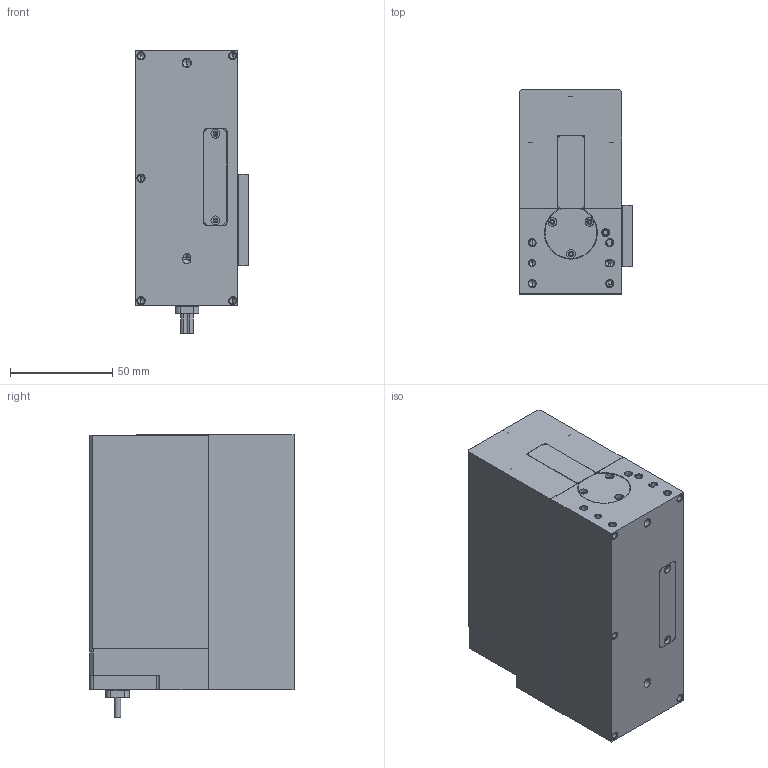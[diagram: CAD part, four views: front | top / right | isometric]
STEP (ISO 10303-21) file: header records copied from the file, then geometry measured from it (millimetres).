
FILE_DESCRIPTION (( 'STEP AP203' ), '1' );
FILE_NAME ('LCS50-050-7.STEP', '2019-09-23T16:58:08', ( '' ), ( '' ), 'SwSTEP 2.0', 'SolidWorks 2018', '' );
FILE_SCHEMA (( 'CONFIG_CONTROL_DESIGN' ));
Length unit declared in the file: millimetre
Products named in the file (11): 180040-01_B; 140127-01; 140124-01_B CENTER POLE; 110041-02_A; CABLE-G; 230038-02_C; 48003-00_A; 120026-01_F1; 22811-03_a; LCS50-050-7; 225800-01_A
Assembly tree (10 placements, depth 2):
  LCS50-050-7
    48003-00_A
    230038-02_C
    22811-03_a
    110041-02_A
    180040-01_B
    120026-01_F1
    225800-01_A
    140127-01
    140124-01_B CENTER POLE
    CABLE-G
Bounding box: 55 x 100 x 138.5 mm (x, y, z)
Volume: 321014.4 mm3; surface area: 125920.3 mm2
Topology: 10 solids, 10 shells, 760 faces, 1963 edges, 1198 vertices
Faces by surface type: cylinder 316, plane 275, cone 151, torus 18
Entity records: 23980 total; most frequent: DIRECTION 4151, CARTESIAN_POINT 3944, ORIENTED_EDGE 3754, EDGE_CURVE 1877, AXIS2_PLACEMENT_3D 1511, VERTEX_POINT 1198, LINE 1129, VECTOR 1129
